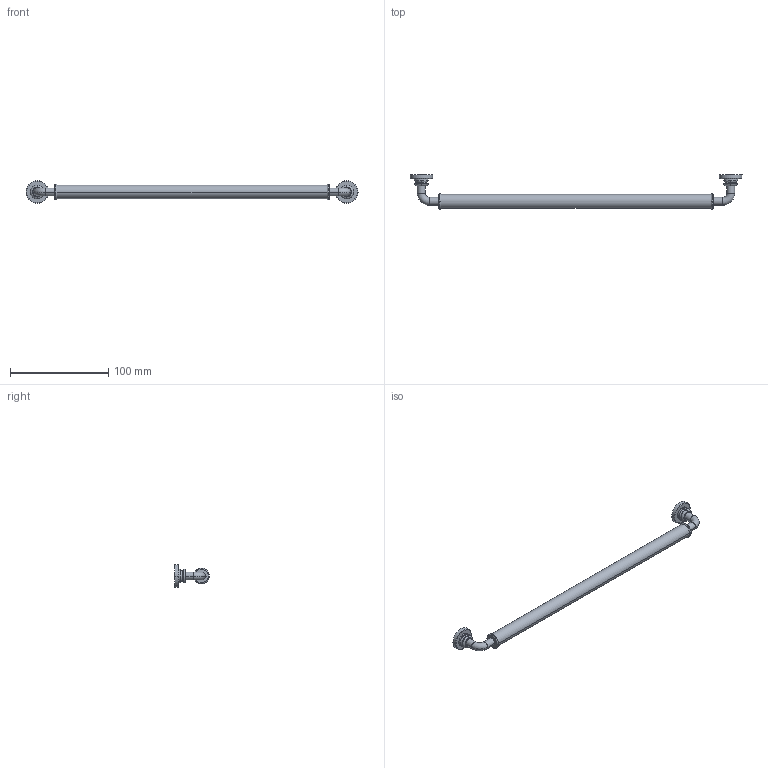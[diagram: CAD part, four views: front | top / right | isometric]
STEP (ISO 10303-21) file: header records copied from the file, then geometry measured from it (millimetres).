
FILE_DESCRIPTION( ( '' ), '1' );
FILE_NAME( 'D:/1.AUTOCAD EXPORT/Group 10/sheet_10_1/9132274.stp', '2013-10-21T06:37:21', ( '' ), ( '' ), ' ', ' ', ' ' );
FILE_SCHEMA( ( 'automotive_design' ) );
Length unit declared in the file: millimetre
Products named in the file (1): 1
Bounding box: 338 x 35 x 23 mm (x, y, z)
Volume: 50968.7 mm3; surface area: 17122.8 mm2
Topology: 1 solids, 1 shells, 95 faces, 230 edges, 141 vertices
Faces by surface type: torus 40, cone 24, cylinder 22, plane 9
Entity records: 5557 total; most frequent: DIRECTION 598, CARTESIAN_POINT 545, STYLED_ITEM 467, PRESENTATION_STYLE_ASSIGNMENT 467, COLOUR_RGB 467, ORIENTED_EDGE 460, AXIS2_PLACEMENT_3D 276, EDGE_CURVE 230
